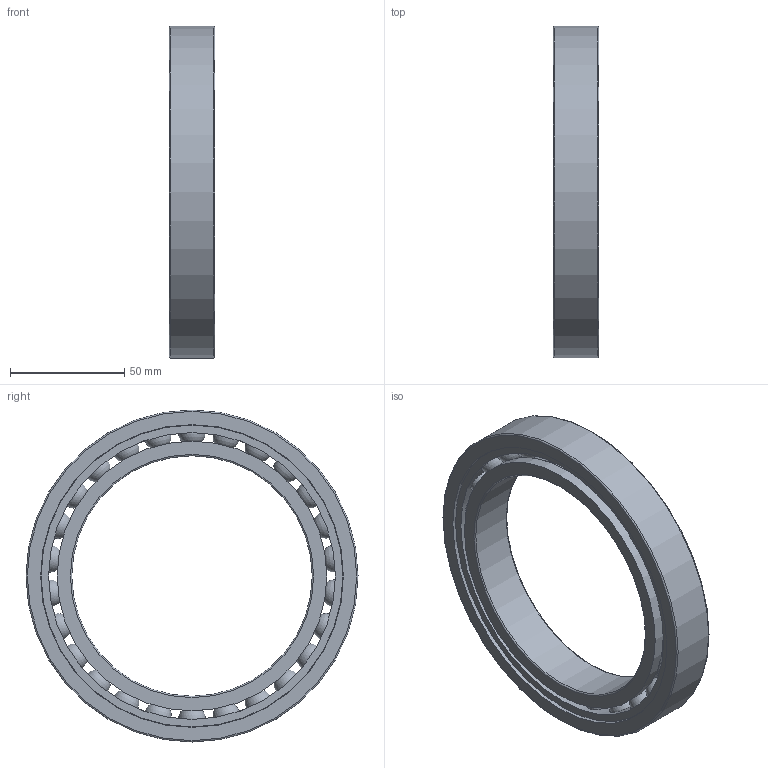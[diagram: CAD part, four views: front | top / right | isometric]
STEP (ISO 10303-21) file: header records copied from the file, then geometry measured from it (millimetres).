
FILE_DESCRIPTION(/* description */ (''),/* implementation_level */ '2;1');
FILE_NAME(/* name */ 'SM_61921_TA.step',/* time_stamp */ '2013-03-11T11:36:11+01:00',/* author */ ('Marian'),/* organization */ ('GMN'),/* preprocessor_version */ 'ST-DEVELOPER v11',/* originating_system */ 'SIEMENS UGS NX 6.0',/* authorisation */ '');
FILE_SCHEMA (('CONFIG_CONTROL_DESIGN'));
Length unit declared in the file: millimetre
Products named in the file (1): SM_61921_TA
Bounding box: 20 x 145 x 145 mm (x, y, z)
Volume: 116337.7 mm3; surface area: 66157.2 mm2
Topology: 29 solids, 29 shells, 72 faces, 194 edges, 126 vertices
Faces by surface type: cylinder 33, sphere 26, torus 6, plane 6, cone 1
Full cylindrical faces by diameter (mm): 12.106 x26, 105 x1, 117.8 x2, 125.246 x1, 131.8 x1, 132.2 x1, 145 x1
Entity records: 2422 total; most frequent: CARTESIAN_POINT 1127, DIRECTION 186, FACE_BOUND 170, EDGE_LOOP 144, ORIENTED_EDGE 144, VERTEX_POINT 98, AXIS2_PLACEMENT_3D 93, EDGE_CURVE 72
